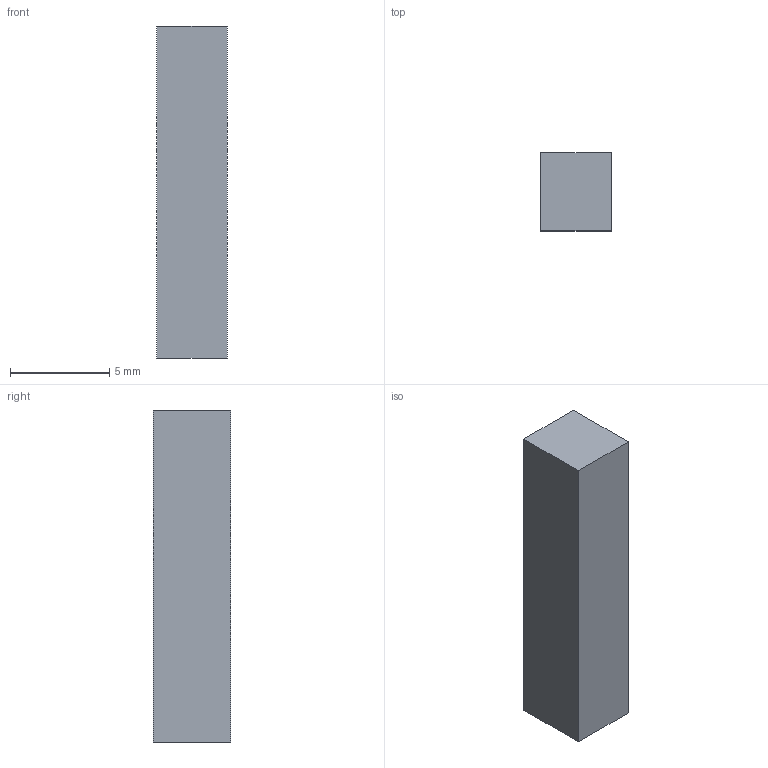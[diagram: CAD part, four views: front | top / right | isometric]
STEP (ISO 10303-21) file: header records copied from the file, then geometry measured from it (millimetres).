
FILE_DESCRIPTION(('Open CASCADE Model'),'2;1');
FILE_NAME('Open CASCADE Shape Model','2026-08-18T10:55:12',('Author'),( 'Open CASCADE'),'Open CASCADE STEP processor 7.9','Open CASCADE 7.9' ,'Unknown');
FILE_SCHEMA(('AUTOMOTIVE_DESIGN { 1 0 10303 214 1 1 1 1 }'));
Length unit declared in the file: millimetre
Products named in the file (1): mipi_connector_2
Bounding box: 3.55 x 3.9 x 16.7 mm (x, y, z)
Volume: 231.2 mm3; surface area: 276.5 mm2
Topology: 1 solids, 1 shells, 6 faces, 12 edges, 8 vertices
Faces by surface type: plane 6
Entity records: 322 total; most frequent: CARTESIAN_POINT 51, DIRECTION 50, LINE 36, VECTOR 36, ORIENTED_EDGE 24, PCURVE 24, DEFINITIONAL_REPRESENTATION 24, EDGE_CURVE 12
